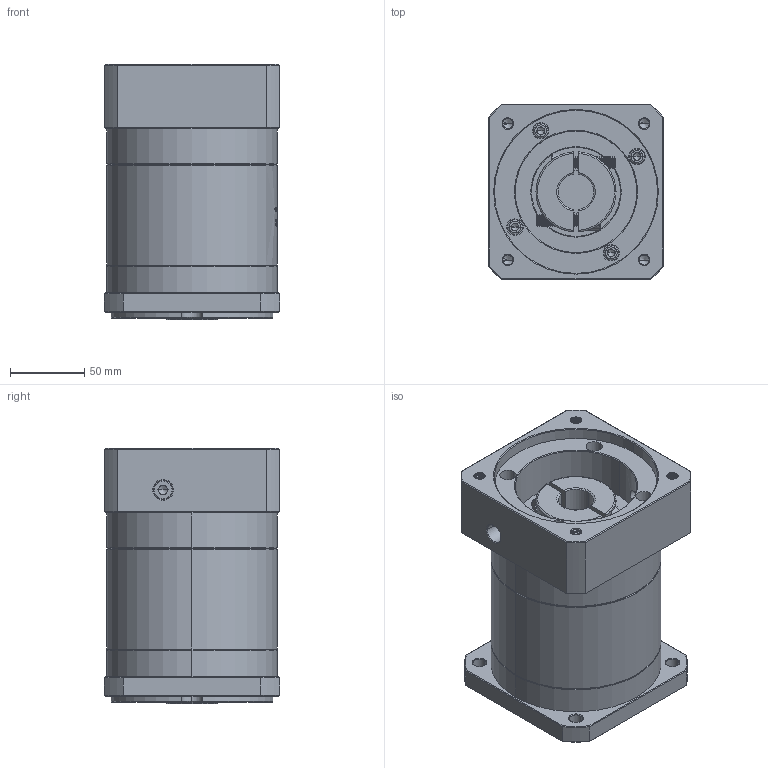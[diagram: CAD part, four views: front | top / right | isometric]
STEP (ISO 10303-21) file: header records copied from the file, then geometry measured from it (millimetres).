
FILE_DESCRIPTION (( 'STEP AP214' ), '1' );
FILE_NAME ('ZF120A-K25-L2-24-110-130-M8.step', '2023-03-07T09:38:19', ( '' ), ( '' ), 'SwSTEP 2.0', 'SolidWorks 2016', '' );
FILE_SCHEMA (( 'AUTOMOTIVE_DESIGN' ));
Length unit declared in the file: millimetre
Products named in the file (1): ZF120A-K25-L2-24-110-130-M8
Bounding box: 118 x 118 x 172 mm (x, y, z)
Volume: 1693860.1 mm3; surface area: 173703.5 mm2
Topology: 6 solids, 6 shells, 1888 faces, 4938 edges, 3148 vertices
Faces by surface type: plane 850, cylinder 389, cone 317, bspline 312, torus 20
Entity records: 101355 total; most frequent: CARTESIAN_POINT 37706, ORIENTED_EDGE 9820, DIRECTION 7652, EDGE_CURVE 4910, VERTEX_POINT 3148, VECTOR 2690, LINE 2690, AXIS2_PLACEMENT_3D 2481
